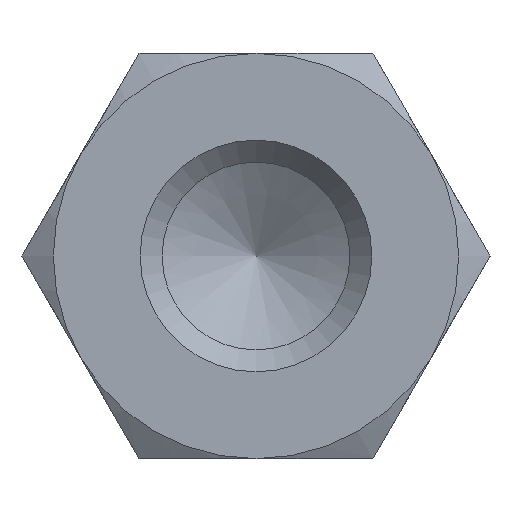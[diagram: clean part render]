
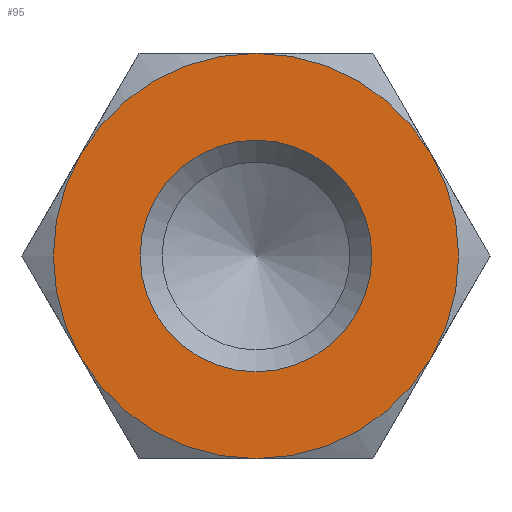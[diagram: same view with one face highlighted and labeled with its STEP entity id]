
A CAD part, left-side view. The second image highlights one B-rep face of the part: STEP entity #95.
In plain terms, the highlighted planar face has unit normal (-1, 0, 0).
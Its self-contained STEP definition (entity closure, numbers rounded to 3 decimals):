
#95 = ADVANCED_FACE( '', ( #147, #148 ), #149, .F. );
#147 = FACE_OUTER_BOUND( '', #206, .T. );
#148 = FACE_BOUND( '', #207, .T. );
#149 = PLANE( '', #208 );
#206 = EDGE_LOOP( '', ( #356, #357, #358, #359, #360, #361 ) );
#207 = EDGE_LOOP( '', ( #362 ) );
#208 = AXIS2_PLACEMENT_3D( '', #363, #364, #365 );
#356 = ORIENTED_EDGE( '', *, *, #440, .F. );
#357 = ORIENTED_EDGE( '', *, *, #425, .F. );
#358 = ORIENTED_EDGE( '', *, *, #441, .F. );
#359 = ORIENTED_EDGE( '', *, *, #437, .F. );
#360 = ORIENTED_EDGE( '', *, *, #442, .F. );
#361 = ORIENTED_EDGE( '', *, *, #443, .F. );
#362 = ORIENTED_EDGE( '', *, *, #439, .T. );
#363 = CARTESIAN_POINT( '', ( -15., 0., 0. ) );
#364 = DIRECTION( '', ( 1., 0., 0. ) );
#365 = DIRECTION( '', ( 0., 0., -1. ) );
#425 = EDGE_CURVE( '', #495, #493, #497, .T. );
#437 = EDGE_CURVE( '', #447, #506, #513, .T. );
#439 = EDGE_CURVE( '', #516, #516, #517, .T. );
#440 = EDGE_CURVE( '', #493, #486, #518, .T. );
#441 = EDGE_CURVE( '', #506, #495, #519, .T. );
#442 = EDGE_CURVE( '', #481, #447, #520, .T. );
#443 = EDGE_CURVE( '', #486, #481, #521, .T. );
#447 = VERTEX_POINT( '', #525 );
#481 = VERTEX_POINT( '', #595 );
#486 = VERTEX_POINT( '', #611 );
#493 = VERTEX_POINT( '', #632 );
#495 = VERTEX_POINT( '', #637 );
#497 = CIRCLE( '', #644, 3.5 );
#506 = VERTEX_POINT( '', #670 );
#513 = CIRCLE( '', #701, 3.5 );
#516 = VERTEX_POINT( '', #704 );
#517 = CIRCLE( '', #705, 2. );
#518 = CIRCLE( '', #706, 3.5 );
#519 = CIRCLE( '', #707, 3.5 );
#520 = CIRCLE( '', #708, 3.5 );
#521 = CIRCLE( '', #709, 3.5 );
#525 = CARTESIAN_POINT( '', ( -15., -3.031, 1.75 ) );
#595 = CARTESIAN_POINT( '', ( -15., 0., 3.5 ) );
#611 = CARTESIAN_POINT( '', ( -15., 3.031, 1.75 ) );
#632 = CARTESIAN_POINT( '', ( -15., 3.031, -1.75 ) );
#637 = CARTESIAN_POINT( '', ( -15., 0., -3.5 ) );
#644 = AXIS2_PLACEMENT_3D( '', #744, #745, #746 );
#670 = CARTESIAN_POINT( '', ( -15., -3.031, -1.75 ) );
#701 = AXIS2_PLACEMENT_3D( '', #749, #750, #751 );
#704 = CARTESIAN_POINT( '', ( -15., 2., 0. ) );
#705 = AXIS2_PLACEMENT_3D( '', #755, #756, #757 );
#706 = AXIS2_PLACEMENT_3D( '', #758, #759, #760 );
#707 = AXIS2_PLACEMENT_3D( '', #761, #762, #763 );
#708 = AXIS2_PLACEMENT_3D( '', #764, #765, #766 );
#709 = AXIS2_PLACEMENT_3D( '', #767, #768, #769 );
#744 = CARTESIAN_POINT( '', ( -15., 0., 0. ) );
#745 = DIRECTION( '', ( 1., 0., 0. ) );
#746 = DIRECTION( '', ( 0., 0., -1. ) );
#749 = CARTESIAN_POINT( '', ( -15., 0., 0. ) );
#750 = DIRECTION( '', ( 1., 0., 0. ) );
#751 = DIRECTION( '', ( 0., 0., -1. ) );
#755 = CARTESIAN_POINT( '', ( -15., 0., 0. ) );
#756 = DIRECTION( '', ( 1., 0., 0. ) );
#757 = DIRECTION( '', ( 0., 1., 0. ) );
#758 = CARTESIAN_POINT( '', ( -15., 0., 0. ) );
#759 = DIRECTION( '', ( 1., 0., 0. ) );
#760 = DIRECTION( '', ( 0., 0., -1. ) );
#761 = CARTESIAN_POINT( '', ( -15., 0., 0. ) );
#762 = DIRECTION( '', ( 1., 0., 0. ) );
#763 = DIRECTION( '', ( 0., 0., -1. ) );
#764 = CARTESIAN_POINT( '', ( -15., 0., 0. ) );
#765 = DIRECTION( '', ( 1., 0., 0. ) );
#766 = DIRECTION( '', ( 0., 0., -1. ) );
#767 = CARTESIAN_POINT( '', ( -15., 0., 0. ) );
#768 = DIRECTION( '', ( 1., 0., 0. ) );
#769 = DIRECTION( '', ( 0., 0., -1. ) );
